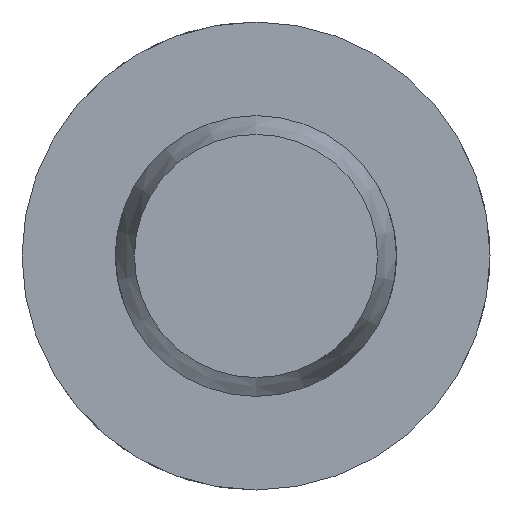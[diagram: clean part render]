
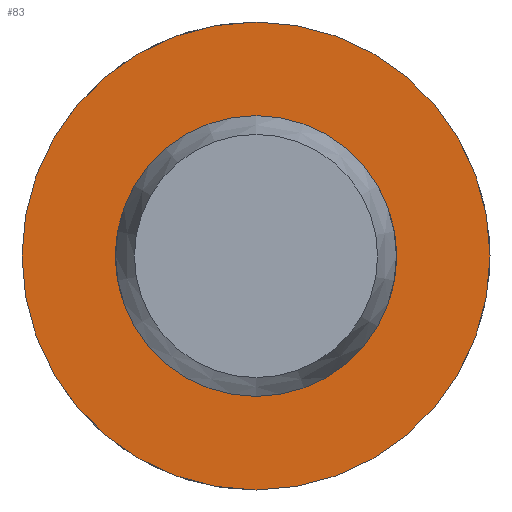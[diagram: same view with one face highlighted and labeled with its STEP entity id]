
A CAD part, left-side view. The second image highlights one B-rep face of the part: STEP entity #83.
In plain terms, the highlighted planar face has unit normal (-1, 0, 0).
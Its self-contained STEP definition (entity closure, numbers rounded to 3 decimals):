
#83 = ADVANCED_FACE( '', ( #128, #129 ), #130, .F. );
#128 = FACE_OUTER_BOUND( '', #205, .T. );
#129 = FACE_BOUND( '', #206, .T. );
#130 = PLANE( '', #207 );
#205 = EDGE_LOOP( '', ( #320 ) );
#206 = EDGE_LOOP( '', ( #321 ) );
#207 = AXIS2_PLACEMENT_3D( '', #322, #323, #324 );
#320 = ORIENTED_EDGE( '', *, *, #484, .F. );
#321 = ORIENTED_EDGE( '', *, *, #474, .T. );
#322 = CARTESIAN_POINT( '', ( 110.6, 6., 0. ) );
#323 = DIRECTION( '', ( 1., 0., 0. ) );
#324 = DIRECTION( '', ( 0., 0., -1. ) );
#474 = EDGE_CURVE( '', #545, #545, #546, .T. );
#484 = EDGE_CURVE( '', #563, #563, #564, .T. );
#545 = VERTEX_POINT( '', #734 );
#546 = CIRCLE( '', #735, 6. );
#563 = VERTEX_POINT( '', #903 );
#564 = CIRCLE( '', #904, 10. );
#734 = CARTESIAN_POINT( '', ( 110.6, 0., -6. ) );
#735 = AXIS2_PLACEMENT_3D( '', #965, #966, #967 );
#903 = CARTESIAN_POINT( '', ( 110.6, 0., -10. ) );
#904 = AXIS2_PLACEMENT_3D( '', #986, #987, #988 );
#965 = CARTESIAN_POINT( '', ( 110.6, 0., 0. ) );
#966 = DIRECTION( '', ( 1., 0., 0. ) );
#967 = DIRECTION( '', ( 0., 0., -1. ) );
#986 = CARTESIAN_POINT( '', ( 110.6, 0., 0. ) );
#987 = DIRECTION( '', ( 1., 0., 0. ) );
#988 = DIRECTION( '', ( 0., 0., -1. ) );
